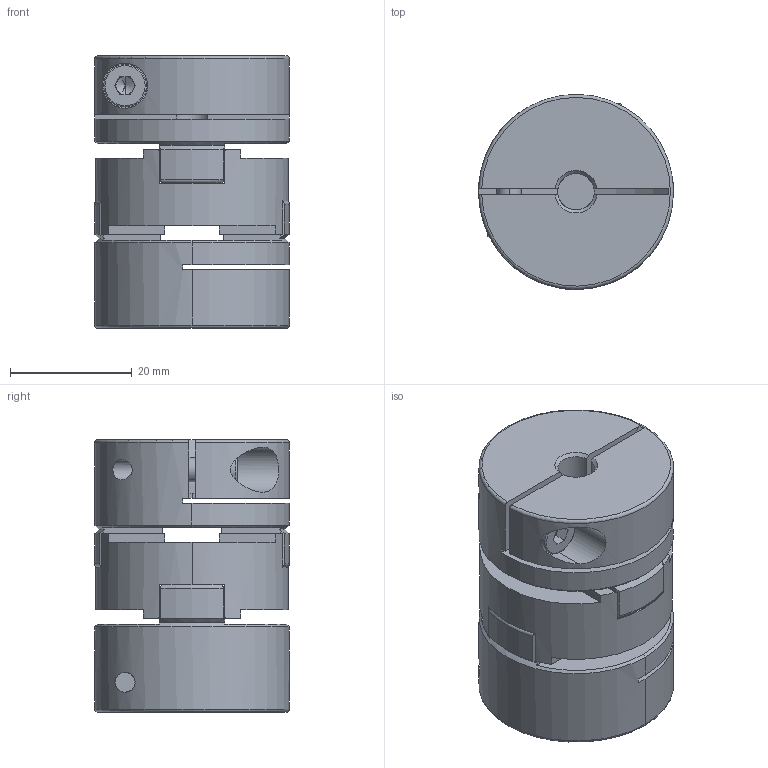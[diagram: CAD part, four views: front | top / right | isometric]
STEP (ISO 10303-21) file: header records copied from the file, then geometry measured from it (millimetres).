
FILE_DESCRIPTION (( 'STEP AP203' ), '1' );
FILE_NAME ('SOH-32C-6X15_203.STEP', '2013-01-24T02:47:03', ( '' ), ( '' ), 'SwSTEP 2.0', 'SolidWorks 2012', '' );
FILE_SCHEMA (( 'CONFIG_CONTROL_DESIGN' ));
Length unit declared in the file: millimetre
Products named in the file (1): SOH-32C-6X15_203
Bounding box: 32 x 32 x 44.7 mm (x, y, z)
Volume: 26857.5 mm3; surface area: 12509.2 mm2
Topology: 1 solids, 1 shells, 219 faces, 623 edges, 391 vertices
Faces by surface type: plane 109, cylinder 63, cone 25, torus 22
Entity records: 7569 total; most frequent: CARTESIAN_POINT 1783, ORIENTED_EDGE 1238, DIRECTION 1184, EDGE_CURVE 619, AXIS2_PLACEMENT_3D 436, VERTEX_POINT 391, VECTOR 312, LINE 312
